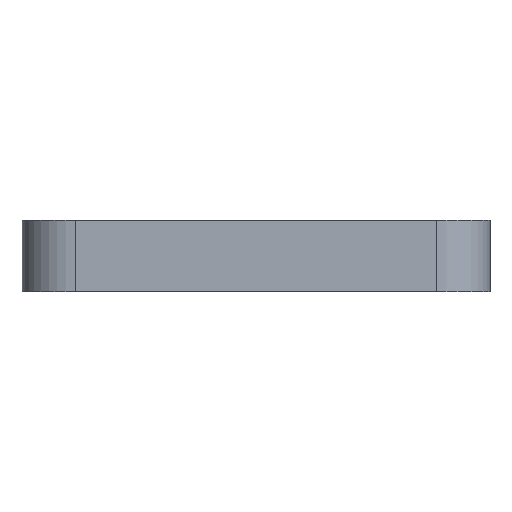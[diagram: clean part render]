
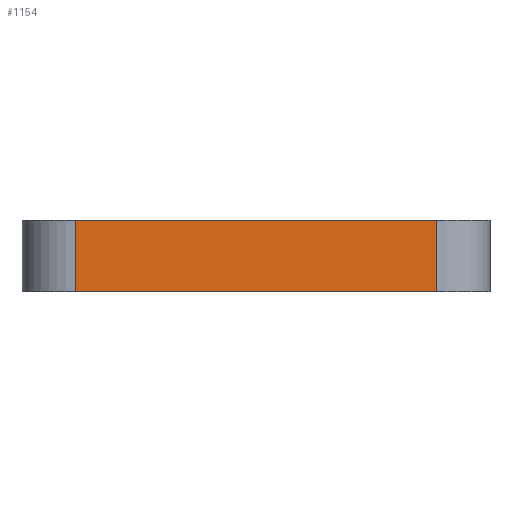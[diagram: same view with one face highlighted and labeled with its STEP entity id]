
A CAD part, front view. The second image highlights one B-rep face of the part: STEP entity #1154.
In plain terms, the highlighted planar face has unit normal (0, -1, 0).
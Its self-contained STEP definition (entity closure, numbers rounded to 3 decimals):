
#160=FACE_OUTER_BOUND('',#218,.T.);
#218=EDGE_LOOP('',(#947,#948,#949,#950));
#336=LINE('',#1938,#448);
#337=LINE('',#1941,#449);
#338=LINE('',#1943,#450);
#339=LINE('',#1944,#451);
#448=VECTOR('',#1596,10.);
#449=VECTOR('',#1599,10.);
#450=VECTOR('',#1600,10.);
#451=VECTOR('',#1601,10.);
#561=VERTEX_POINT('',#1934);
#562=VERTEX_POINT('',#1936);
#563=VERTEX_POINT('',#1940);
#564=VERTEX_POINT('',#1942);
#726=EDGE_CURVE('',#561,#562,#336,.T.);
#727=EDGE_CURVE('',#561,#563,#337,.F.);
#728=EDGE_CURVE('',#564,#562,#338,.T.);
#729=EDGE_CURVE('',#563,#564,#339,.T.);
#947=ORIENTED_EDGE('',*,*,#727,.F.);
#948=ORIENTED_EDGE('',*,*,#726,.T.);
#949=ORIENTED_EDGE('',*,*,#728,.F.);
#950=ORIENTED_EDGE('',*,*,#729,.F.);
#1097=PLANE('',#1268);
#1154=ADVANCED_FACE('',(#160),#1097,.T.);
#1268=AXIS2_PLACEMENT_3D('',#1939,#1597,#1598);
#1596=DIRECTION('',(0.,0.,1.));
#1597=DIRECTION('center_axis',(0.,-1.,0.));
#1598=DIRECTION('ref_axis',(1.,0.,0.));
#1599=DIRECTION('',(1.,0.,0.));
#1600=DIRECTION('',(1.,0.,0.));
#1601=DIRECTION('',(0.,0.,1.));
#1934=CARTESIAN_POINT('',(10.15,27.3,-17.25));
#1936=CARTESIAN_POINT('',(10.15,27.3,-13.25));
#1938=CARTESIAN_POINT('',(10.15,27.3,-17.25));
#1939=CARTESIAN_POINT('Origin',(-10.15,27.3,-17.25));
#1940=CARTESIAN_POINT('',(-10.15,27.3,-17.25));
#1941=CARTESIAN_POINT('',(-5.075,27.3,-17.25));
#1942=CARTESIAN_POINT('',(-10.15,27.3,-13.25));
#1943=CARTESIAN_POINT('',(-5.075,27.3,-13.25));
#1944=CARTESIAN_POINT('',(-10.15,27.3,-17.25));
